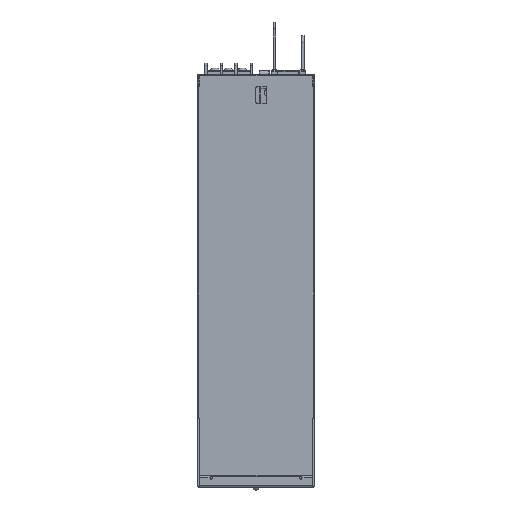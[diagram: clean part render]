
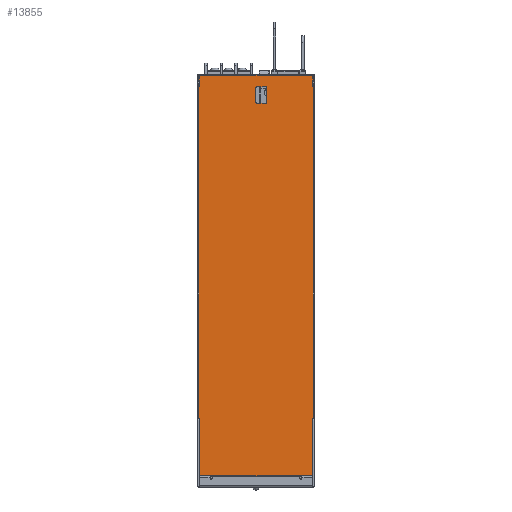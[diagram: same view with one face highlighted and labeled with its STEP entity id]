
A CAD part, top view. The second image highlights one B-rep face of the part: STEP entity #13855.
In plain terms, the highlighted planar face has unit normal (0, 0, 1) as drawn and (0, 0, -1) by its records, which use the part's own axes.
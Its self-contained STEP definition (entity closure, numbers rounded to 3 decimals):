
#12491=DIRECTION('',(1.,0.,0.));
#12492=VECTOR('',#12491,0.25);
#12493=CARTESIAN_POINT('',(260.387,98.952,1.));
#12494=LINE('',#12493,#12492);
#12513=DIRECTION('',(0.,1.,0.));
#12514=VECTOR('',#12513,241.55);
#12515=CARTESIAN_POINT('',(260.637,98.952,1.));
#12516=LINE('',#12515,#12514);
#12527=DIRECTION('',(1.,0.,0.));
#12528=VECTOR('',#12527,0.3);
#12529=CARTESIAN_POINT('',(260.337,340.502,1.));
#12530=LINE('',#12529,#12528);
#12534=DIRECTION('',(0.,-1.,0.));
#12535=VECTOR('',#12534,7.15);
#12536=CARTESIAN_POINT('',(260.337,347.652,1.));
#12537=LINE('',#12536,#12535);
#12541=CARTESIAN_POINT('',(259.337,347.652,1.));
#12542=DIRECTION('',(0.,0.,-1.));
#12543=DIRECTION('',(0.,1.,0.));
#12544=AXIS2_PLACEMENT_3D('',#12541,#12542,#12543);
#12549=CARTESIAN_POINT('',(178.737,347.652,1.));
#12550=DIRECTION('',(0.,0.,-1.));
#12551=DIRECTION('',(-1.,0.,0.));
#12552=AXIS2_PLACEMENT_3D('',#12549,#12550,#12551);
#12557=DIRECTION('',(0.,1.,0.));
#12558=VECTOR('',#12557,7.15);
#12559=CARTESIAN_POINT('',(177.737,340.502,1.));
#12560=LINE('',#12559,#12558);
#12564=DIRECTION('',(1.,0.,0.));
#12565=VECTOR('',#12564,0.3);
#12566=CARTESIAN_POINT('',(177.437,340.502,1.));
#12567=LINE('',#12566,#12565);
#12571=DIRECTION('',(0.,1.,0.));
#12572=VECTOR('',#12571,41.);
#12573=CARTESIAN_POINT('',(177.687,57.952,1.));
#12574=LINE('',#12573,#12572);
#12578=CARTESIAN_POINT('',(178.687,57.952,1.));
#12579=DIRECTION('',(0.,0.,-1.));
#12580=DIRECTION('',(0.,-1.,0.));
#12581=AXIS2_PLACEMENT_3D('',#12578,#12579,#12580);
#12586=CARTESIAN_POINT('',(259.387,57.952,1.));
#12587=DIRECTION('',(0.,0.,-1.));
#12588=DIRECTION('',(1.,0.,0.));
#12589=AXIS2_PLACEMENT_3D('',#12586,#12587,#12588);
#12594=DIRECTION('',(-1.,0.,0.));
#12595=VECTOR('',#12594,7.);
#12596=CARTESIAN_POINT('',(218.537,340.202,1.));
#12597=LINE('',#12596,#12595);
#12601=CARTESIAN_POINT('',(218.537,339.702,1.));
#12602=DIRECTION('',(0.,0.,1.));
#12603=DIRECTION('',(1.,0.,0.));
#12604=AXIS2_PLACEMENT_3D('',#12601,#12602,#12603);
#12609=DIRECTION('',(0.,1.,0.));
#12610=VECTOR('',#12609,11.);
#12611=CARTESIAN_POINT('',(219.037,328.702,1.));
#12612=LINE('',#12611,#12610);
#12616=CARTESIAN_POINT('',(218.537,328.702,1.));
#12617=DIRECTION('',(0.,0.,1.));
#12618=DIRECTION('',(0.,-1.,0.));
#12619=AXIS2_PLACEMENT_3D('',#12616,#12617,#12618);
#12624=DIRECTION('',(1.,0.,0.));
#12625=VECTOR('',#12624,7.);
#12626=CARTESIAN_POINT('',(211.537,328.202,1.));
#12627=LINE('',#12626,#12625);
#12631=CARTESIAN_POINT('',(211.537,328.702,1.));
#12632=DIRECTION('',(0.,0.,1.));
#12633=DIRECTION('',(-1.,0.,0.));
#12634=AXIS2_PLACEMENT_3D('',#12631,#12632,#12633);
#12639=DIRECTION('',(0.,-1.,0.));
#12640=VECTOR('',#12639,11.);
#12641=CARTESIAN_POINT('',(211.037,339.702,1.));
#12642=LINE('',#12641,#12640);
#12646=CARTESIAN_POINT('',(211.537,339.702,1.));
#12647=DIRECTION('',(0.,0.,1.));
#12648=DIRECTION('',(0.,1.,0.));
#12649=AXIS2_PLACEMENT_3D('',#12646,#12647,#12648);
#12973=DIRECTION('',(0.,1.,0.));
#12974=VECTOR('',#12973,41.);
#12975=CARTESIAN_POINT('',(260.387,57.952,1.));
#12976=LINE('',#12975,#12974);
#12994=DIRECTION('',(1.,0.,0.));
#12995=VECTOR('',#12994,80.7);
#12996=CARTESIAN_POINT('',(178.687,56.952,1.));
#12997=LINE('',#12996,#12995);
#13037=DIRECTION('',(1.,0.,0.));
#13038=VECTOR('',#13037,0.25);
#13039=CARTESIAN_POINT('',(177.437,98.952,1.));
#13040=LINE('',#13039,#13038);
#13135=DIRECTION('',(0.,-1.,0.));
#13136=VECTOR('',#13135,241.55);
#13137=CARTESIAN_POINT('',(177.437,340.502,1.));
#13138=LINE('',#13137,#13136);
#13406=DIRECTION('',(-1.,0.,0.));
#13407=VECTOR('',#13406,80.6);
#13408=CARTESIAN_POINT('',(259.337,348.652,1.));
#13409=LINE('',#13408,#13407);
#13493=CARTESIAN_POINT('',(259.337,348.652,1.));
#13494=VERTEX_POINT('',#13493);
#13495=CARTESIAN_POINT('',(260.337,347.652,1.));
#13496=VERTEX_POINT('',#13495);
#13505=CARTESIAN_POINT('',(260.337,340.502,1.));
#13506=VERTEX_POINT('',#13505);
#13507=CARTESIAN_POINT('',(260.637,340.502,1.));
#13508=VERTEX_POINT('',#13507);
#13533=CARTESIAN_POINT('',(178.687,56.952,1.));
#13534=CARTESIAN_POINT('',(177.687,57.952,1.));
#13535=VERTEX_POINT('',#13533);
#13536=VERTEX_POINT('',#13534);
#13545=CARTESIAN_POINT('',(260.387,57.952,1.));
#13546=VERTEX_POINT('',#13545);
#13547=CARTESIAN_POINT('',(259.387,56.952,1.));
#13548=VERTEX_POINT('',#13547);
#13553=CARTESIAN_POINT('',(211.037,339.702,1.));
#13554=VERTEX_POINT('',#13553);
#13555=CARTESIAN_POINT('',(211.037,328.702,1.));
#13556=VERTEX_POINT('',#13555);
#13557=CARTESIAN_POINT('',(178.737,348.652,1.));
#13558=VERTEX_POINT('',#13557);
#13581=CARTESIAN_POINT('',(219.037,328.702,1.));
#13582=CARTESIAN_POINT('',(219.037,339.702,1.));
#13583=VERTEX_POINT('',#13581);
#13584=VERTEX_POINT('',#13582);
#13593=CARTESIAN_POINT('',(177.687,98.952,1.));
#13594=VERTEX_POINT('',#13593);
#13595=CARTESIAN_POINT('',(177.437,98.952,1.));
#13596=VERTEX_POINT('',#13595);
#13619=CARTESIAN_POINT('',(260.637,98.952,1.));
#13620=VERTEX_POINT('',#13619);
#13621=CARTESIAN_POINT('',(260.387,98.952,1.));
#13622=VERTEX_POINT('',#13621);
#13623=CARTESIAN_POINT('',(218.537,340.202,1.));
#13624=VERTEX_POINT('',#13623);
#13625=CARTESIAN_POINT('',(218.537,328.202,1.));
#13626=VERTEX_POINT('',#13625);
#13627=CARTESIAN_POINT('',(211.537,328.202,1.));
#13628=VERTEX_POINT('',#13627);
#13629=CARTESIAN_POINT('',(211.537,340.202,1.));
#13630=VERTEX_POINT('',#13629);
#13631=CARTESIAN_POINT('',(177.737,347.652,1.));
#13632=VERTEX_POINT('',#13631);
#13633=CARTESIAN_POINT('',(177.737,340.502,1.));
#13634=VERTEX_POINT('',#13633);
#13635=CARTESIAN_POINT('',(177.437,340.502,1.));
#13636=VERTEX_POINT('',#13635);
#13801=CARTESIAN_POINT('',(260.387,92.252,1.));
#13802=DIRECTION('',(0.,0.,-1.));
#13803=DIRECTION('',(-1.,0.,0.));
#13804=AXIS2_PLACEMENT_3D('',#13801,#13802,#13803);
#13805=PLANE('',#13804);
#13806=ORIENTED_EDGE('',*,*,#13793,.T.);
#13807=ORIENTED_EDGE('',*,*,#13716,.F.);
#13809=ORIENTED_EDGE('',*,*,#13808,.F.);
#13811=ORIENTED_EDGE('',*,*,#13810,.F.);
#13813=ORIENTED_EDGE('',*,*,#13812,.T.);
#13815=ORIENTED_EDGE('',*,*,#13814,.F.);
#13817=ORIENTED_EDGE('',*,*,#13816,.F.);
#13819=ORIENTED_EDGE('',*,*,#13818,.F.);
#13821=ORIENTED_EDGE('',*,*,#13820,.T.);
#13823=ORIENTED_EDGE('',*,*,#13822,.T.);
#13825=ORIENTED_EDGE('',*,*,#13824,.F.);
#13827=ORIENTED_EDGE('',*,*,#13826,.F.);
#13829=ORIENTED_EDGE('',*,*,#13828,.T.);
#13831=ORIENTED_EDGE('',*,*,#13830,.F.);
#13833=ORIENTED_EDGE('',*,*,#13832,.T.);
#13834=ORIENTED_EDGE('',*,*,#13775,.T.);
#13835=EDGE_LOOP('',(#13806,#13807,#13809,#13811,#13813,#13815,#13817,#13819,
#13821,#13823,#13825,#13827,#13829,#13831,#13833,#13834));
#13836=FACE_OUTER_BOUND('',#13835,.F.);
#13838=ORIENTED_EDGE('',*,*,#13837,.F.);
#13840=ORIENTED_EDGE('',*,*,#13839,.F.);
#13842=ORIENTED_EDGE('',*,*,#13841,.F.);
#13844=ORIENTED_EDGE('',*,*,#13843,.F.);
#13846=ORIENTED_EDGE('',*,*,#13845,.F.);
#13848=ORIENTED_EDGE('',*,*,#13847,.F.);
#13850=ORIENTED_EDGE('',*,*,#13849,.F.);
#13852=ORIENTED_EDGE('',*,*,#13851,.F.);
#13853=EDGE_LOOP('',(#13838,#13840,#13842,#13844,#13846,#13848,#13850,#13852));
#13854=FACE_BOUND('',#13853,.F.);
#12545=CIRCLE('',#12544,1.);
#12553=CIRCLE('',#12552,1.);
#12582=CIRCLE('',#12581,1.);
#12590=CIRCLE('',#12589,1.);
#12605=CIRCLE('',#12604,0.5);
#12620=CIRCLE('',#12619,0.5);
#12635=CIRCLE('',#12634,0.5);
#12650=CIRCLE('',#12649,0.5);
#13716=EDGE_CURVE('',#13506,#13508,#12530,.T.);
#13775=EDGE_CURVE('',#13622,#13620,#12494,.T.);
#13793=EDGE_CURVE('',#13620,#13508,#12516,.T.);
#13808=EDGE_CURVE('',#13496,#13506,#12537,.T.);
#13810=EDGE_CURVE('',#13494,#13496,#12545,.T.);
#13812=EDGE_CURVE('',#13494,#13558,#13409,.T.);
#13814=EDGE_CURVE('',#13632,#13558,#12553,.T.);
#13816=EDGE_CURVE('',#13634,#13632,#12560,.T.);
#13818=EDGE_CURVE('',#13636,#13634,#12567,.T.);
#13820=EDGE_CURVE('',#13636,#13596,#13138,.T.);
#13822=EDGE_CURVE('',#13596,#13594,#13040,.T.);
#13824=EDGE_CURVE('',#13536,#13594,#12574,.T.);
#13826=EDGE_CURVE('',#13535,#13536,#12582,.T.);
#13828=EDGE_CURVE('',#13535,#13548,#12997,.T.);
#13830=EDGE_CURVE('',#13546,#13548,#12590,.T.);
#13832=EDGE_CURVE('',#13546,#13622,#12976,.T.);
#13837=EDGE_CURVE('',#13624,#13630,#12597,.T.);
#13839=EDGE_CURVE('',#13584,#13624,#12605,.T.);
#13841=EDGE_CURVE('',#13583,#13584,#12612,.T.);
#13843=EDGE_CURVE('',#13626,#13583,#12620,.T.);
#13845=EDGE_CURVE('',#13628,#13626,#12627,.T.);
#13847=EDGE_CURVE('',#13556,#13628,#12635,.T.);
#13849=EDGE_CURVE('',#13554,#13556,#12642,.T.);
#13851=EDGE_CURVE('',#13630,#13554,#12650,.T.);
#13855=ADVANCED_FACE('',(#13836,#13854),#13805,.T.);
